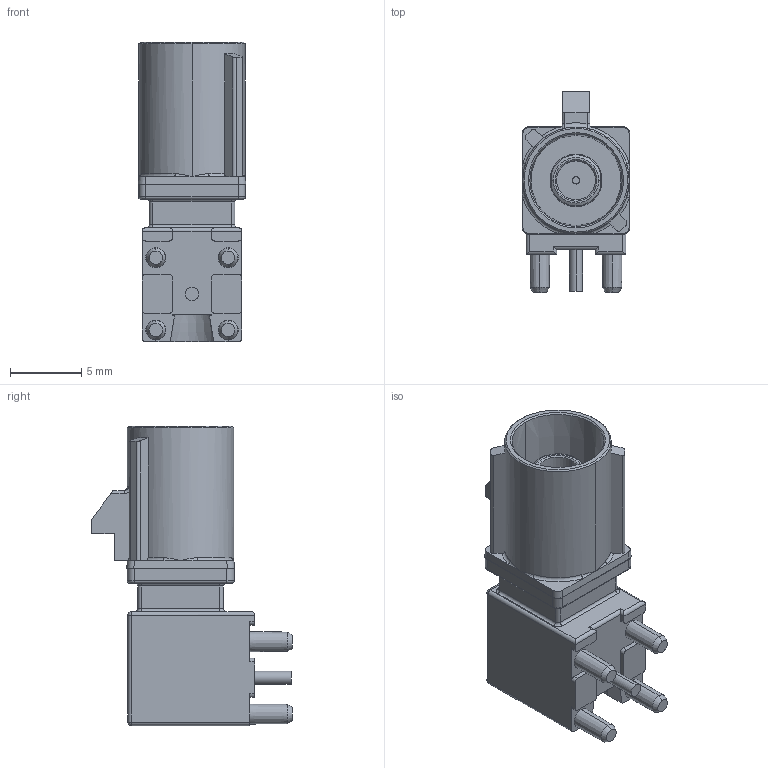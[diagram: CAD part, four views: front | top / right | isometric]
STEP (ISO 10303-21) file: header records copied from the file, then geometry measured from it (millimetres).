
FILE_DESCRIPTION((''),'2;1');
FILE_NAME('C-2291392-3','2017-01-19T',('workeradm'),('Tyco Electronics Ltd.'),'CREO PARAMETRIC BY PTC INC, 2016050','CREO PARAMETRIC BY PTC INC, 2016050','');
FILE_SCHEMA(('AUTOMOTIVE_DESIGN { 1 0 10303 214 1 1 1 1 }'));
Length unit declared in the file: millimetre
Products named in the file (1): C-2291392-3
Bounding box: 7.56 x 14.1 x 21 mm (x, y, z)
Volume: 867.5 mm3; surface area: 1087.5 mm2
Topology: 1 solids, 1 shells, 227 faces, 556 edges, 343 vertices
Faces by surface type: plane 77, cylinder 72, cone 27, bspline 24, torus 21, sphere 4, extrusion 2
Entity records: 13501 total; most frequent: CARTESIAN_POINT 8096, ORIENTED_EDGE 1112, DIRECTION 1073, EDGE_CURVE 556, AXIS2_PLACEMENT_3D 402, VERTEX_POINT 343, VECTOR 269, LINE 267
